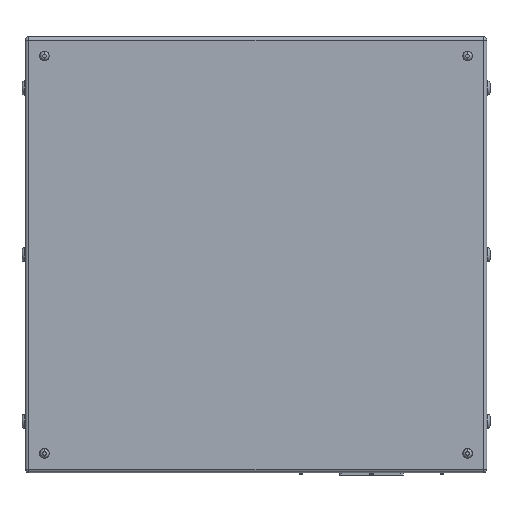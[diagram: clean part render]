
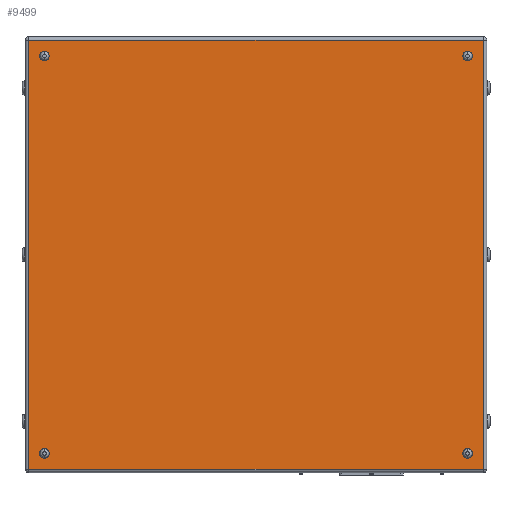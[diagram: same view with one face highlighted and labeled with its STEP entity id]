
A CAD part, front view. The second image highlights one B-rep face of the part: STEP entity #9499.
In plain terms, the highlighted planar face has unit normal (0, -1, 0).
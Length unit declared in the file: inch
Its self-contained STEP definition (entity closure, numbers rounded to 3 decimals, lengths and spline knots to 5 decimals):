
#220 = EDGE_CURVE ( 'NONE', #13367, #1342, #8935, .T. ) ;
#399 = AXIS2_PLACEMENT_3D ( 'NONE', #11815, #15180, #6058 ) ;
#473 = CARTESIAN_POINT ( 'NONE',  ( 0., -7.75, 0. ) ) ;
#524 = VECTOR ( 'NONE', #6562, 39.37008 ) ;
#556 = CIRCLE ( 'NONE', #11425, 0.37402 ) ;
#579 = LINE ( 'NONE', #1799, #524 ) ;
#589 = CARTESIAN_POINT ( 'NONE',  ( -16.5, -7.75, 15.5 ) ) ;
#716 = CARTESIAN_POINT ( 'NONE',  ( 16.5, -7.75, 15.5 ) ) ;
#803 = ORIENTED_EDGE ( 'NONE', *, *, #4054, .F. ) ;
#1209 = DIRECTION ( 'NONE',  ( 0., -1., 0. ) ) ;
#1342 = VERTEX_POINT ( 'NONE', #6929 ) ;
#1357 = DIRECTION ( 'NONE',  ( 0., -1., 0. ) ) ;
#1518 = ORIENTED_EDGE ( 'NONE', *, *, #1999, .T. ) ;
#1523 = CIRCLE ( 'NONE', #12390, 0.37402 ) ;
#1799 = CARTESIAN_POINT ( 'NONE',  ( -17.734, -7.75, 16.734 ) ) ;
#1999 = EDGE_CURVE ( 'NONE', #4514, #7665, #8970, .T. ) ;
#2018 = CARTESIAN_POINT ( 'NONE',  ( 17.734, -7.75, -16.734 ) ) ;
#2274 = CIRCLE ( 'NONE', #14120, 0.37402 ) ;
#2425 = EDGE_LOOP ( 'NONE', ( #6104, #11418 ) ) ;
#2498 = ORIENTED_EDGE ( 'NONE', *, *, #8662, .T. ) ;
#2500 = VERTEX_POINT ( 'NONE', #9422 ) ;
#2539 = ORIENTED_EDGE ( 'NONE', *, *, #7793, .F. ) ;
#2714 = DIRECTION ( 'NONE',  ( 0., -1., 0. ) ) ;
#2738 = CARTESIAN_POINT ( 'NONE',  ( 17.734, -7.75, -16.734 ) ) ;
#2740 = DIRECTION ( 'NONE',  ( 0., -1., 0. ) ) ;
#2813 = DIRECTION ( 'NONE',  ( 0., 0., -1. ) ) ;
#3139 = EDGE_CURVE ( 'NONE', #14679, #12711, #13723, .T. ) ;
#3445 = VERTEX_POINT ( 'NONE', #11557 ) ;
#3470 = CIRCLE ( 'NONE', #5221, 0.37402 ) ;
#3528 = CIRCLE ( 'NONE', #9226, 0.37402 ) ;
#3604 = DIRECTION ( 'NONE',  ( 0., 0., -1. ) ) ;
#3809 = VERTEX_POINT ( 'NONE', #8789 ) ;
#3865 = FACE_OUTER_BOUND ( 'NONE', #13239, .T. ) ;
#3964 = DIRECTION ( 'NONE',  ( 1., 0., 0. ) ) ;
#3983 = ORIENTED_EDGE ( 'NONE', *, *, #11638, .T. ) ;
#4004 = AXIS2_PLACEMENT_3D ( 'NONE', #473, #2714, #12164 ) ;
#4054 = EDGE_CURVE ( 'NONE', #11959, #3809, #4960, .T. ) ;
#4221 = DIRECTION ( 'NONE',  ( 0., 0., -1. ) ) ;
#4298 = DIRECTION ( 'NONE',  ( 0., -1., 0. ) ) ;
#4436 = CARTESIAN_POINT ( 'NONE',  ( -17.734, -7.75, 16.734 ) ) ;
#4514 = VERTEX_POINT ( 'NONE', #4436 ) ;
#4929 = EDGE_LOOP ( 'NONE', ( #6351, #2539 ) ) ;
#4960 = CIRCLE ( 'NONE', #13841, 0.37402 ) ;
#5055 = FACE_BOUND ( 'NONE', #4929, .T. ) ;
#5192 = VECTOR ( 'NONE', #3964, 39.37008 ) ;
#5221 = AXIS2_PLACEMENT_3D ( 'NONE', #7437, #6168, #9725 ) ;
#5312 = LINE ( 'NONE', #2738, #5192 ) ;
#5613 = AXIS2_PLACEMENT_3D ( 'NONE', #8080, #12771, #15117 ) ;
#5680 = ORIENTED_EDGE ( 'NONE', *, *, #14100, .F. ) ;
#6004 = DIRECTION ( 'NONE',  ( 0., -1., 0. ) ) ;
#6058 = DIRECTION ( 'NONE',  ( 0., 0., -1. ) ) ;
#6104 = ORIENTED_EDGE ( 'NONE', *, *, #9210, .F. ) ;
#6168 = DIRECTION ( 'NONE',  ( 0., -1., 0. ) ) ;
#6329 = CARTESIAN_POINT ( 'NONE',  ( -16.5, -7.75, -15.5 ) ) ;
#6351 = ORIENTED_EDGE ( 'NONE', *, *, #12852, .F. ) ;
#6562 = DIRECTION ( 'NONE',  ( -1., 0., 0. ) ) ;
#6626 = CIRCLE ( 'NONE', #5613, 0.37402 ) ;
#6856 = CARTESIAN_POINT ( 'NONE',  ( 16.5, -7.75, 15.5 ) ) ;
#6929 = CARTESIAN_POINT ( 'NONE',  ( 17.734, -7.75, 16.734 ) ) ;
#7041 = EDGE_LOOP ( 'NONE', ( #12302, #11736 ) ) ;
#7171 = DIRECTION ( 'NONE',  ( 0., 0., 1. ) ) ;
#7211 = EDGE_LOOP ( 'NONE', ( #5680, #803 ) ) ;
#7437 = CARTESIAN_POINT ( 'NONE',  ( 16.5, -7.75, -15.5 ) ) ;
#7665 = VERTEX_POINT ( 'NONE', #13119 ) ;
#7793 = EDGE_CURVE ( 'NONE', #8530, #10760, #3470, .T. ) ;
#8031 = DIRECTION ( 'NONE',  ( 0., 0., -1. ) ) ;
#8080 = CARTESIAN_POINT ( 'NONE',  ( -16.5, -7.75, 15.5 ) ) ;
#8530 = VERTEX_POINT ( 'NONE', #9259 ) ;
#8662 = EDGE_CURVE ( 'NONE', #1342, #4514, #579, .T. ) ;
#8789 = CARTESIAN_POINT ( 'NONE',  ( 16.5, -7.75, 15.87402 ) ) ;
#8935 = LINE ( 'NONE', #13619, #14940 ) ;
#8970 = LINE ( 'NONE', #13493, #13714 ) ;
#9210 = EDGE_CURVE ( 'NONE', #12711, #14679, #556, .T. ) ;
#9226 = AXIS2_PLACEMENT_3D ( 'NONE', #716, #1357, #13636 ) ;
#9259 = CARTESIAN_POINT ( 'NONE',  ( 16.5, -7.75, -15.87402 ) ) ;
#9422 = CARTESIAN_POINT ( 'NONE',  ( -16.5, -7.75, 15.12598 ) ) ;
#9499 = ADVANCED_FACE ( 'NONE', ( #12295, #5055, #9712, #14456, #3865 ), #13312, .T. ) ;
#9712 = FACE_BOUND ( 'NONE', #7041, .T. ) ;
#9725 = DIRECTION ( 'NONE',  ( 0., 0., -1. ) ) ;
#9861 = CARTESIAN_POINT ( 'NONE',  ( 16.5, -7.75, -15.12598 ) ) ;
#10760 = VERTEX_POINT ( 'NONE', #9861 ) ;
#11267 = CARTESIAN_POINT ( 'NONE',  ( -16.5, -7.75, -15.87402 ) ) ;
#11291 = CARTESIAN_POINT ( 'NONE',  ( 16.5, -7.75, 15.12598 ) ) ;
#11418 = ORIENTED_EDGE ( 'NONE', *, *, #3139, .F. ) ;
#11425 = AXIS2_PLACEMENT_3D ( 'NONE', #6329, #2740, #2813 ) ;
#11518 = CARTESIAN_POINT ( 'NONE',  ( -16.5, -7.75, -15.12598 ) ) ;
#11557 = CARTESIAN_POINT ( 'NONE',  ( -16.5, -7.75, 15.87402 ) ) ;
#11638 = EDGE_CURVE ( 'NONE', #7665, #13367, #5312, .T. ) ;
#11736 = ORIENTED_EDGE ( 'NONE', *, *, #14567, .F. ) ;
#11815 = CARTESIAN_POINT ( 'NONE',  ( -16.5, -7.75, -15.5 ) ) ;
#11959 = VERTEX_POINT ( 'NONE', #11291 ) ;
#12164 = DIRECTION ( 'NONE',  ( 0., 0., -1. ) ) ;
#12295 = FACE_BOUND ( 'NONE', #7211, .T. ) ;
#12302 = ORIENTED_EDGE ( 'NONE', *, *, #12989, .F. ) ;
#12390 = AXIS2_PLACEMENT_3D ( 'NONE', #13199, #1209, #3604 ) ;
#12711 = VERTEX_POINT ( 'NONE', #11518 ) ;
#12771 = DIRECTION ( 'NONE',  ( 0., -1., 0. ) ) ;
#12852 = EDGE_CURVE ( 'NONE', #10760, #8530, #1523, .T. ) ;
#12989 = EDGE_CURVE ( 'NONE', #3445, #2500, #2274, .T. ) ;
#13119 = CARTESIAN_POINT ( 'NONE',  ( -17.734, -7.75, -16.734 ) ) ;
#13199 = CARTESIAN_POINT ( 'NONE',  ( 16.5, -7.75, -15.5 ) ) ;
#13239 = EDGE_LOOP ( 'NONE', ( #13987, #2498, #1518, #3983 ) ) ;
#13312 = PLANE ( 'NONE',  #4004 ) ;
#13367 = VERTEX_POINT ( 'NONE', #2018 ) ;
#13493 = CARTESIAN_POINT ( 'NONE',  ( -17.734, -7.75, -16.734 ) ) ;
#13619 = CARTESIAN_POINT ( 'NONE',  ( 17.734, -7.75, 16.734 ) ) ;
#13636 = DIRECTION ( 'NONE',  ( 0., 0., -1. ) ) ;
#13714 = VECTOR ( 'NONE', #14633, 39.37008 ) ;
#13723 = CIRCLE ( 'NONE', #399, 0.37402 ) ;
#13841 = AXIS2_PLACEMENT_3D ( 'NONE', #6856, #6004, #8031 ) ;
#13987 = ORIENTED_EDGE ( 'NONE', *, *, #220, .T. ) ;
#14100 = EDGE_CURVE ( 'NONE', #3809, #11959, #3528, .T. ) ;
#14120 = AXIS2_PLACEMENT_3D ( 'NONE', #589, #4298, #4221 ) ;
#14456 = FACE_BOUND ( 'NONE', #2425, .T. ) ;
#14567 = EDGE_CURVE ( 'NONE', #2500, #3445, #6626, .T. ) ;
#14633 = DIRECTION ( 'NONE',  ( 0., 0., -1. ) ) ;
#14679 = VERTEX_POINT ( 'NONE', #11267 ) ;
#14940 = VECTOR ( 'NONE', #7171, 39.37008 ) ;
#15117 = DIRECTION ( 'NONE',  ( 0., 0., -1. ) ) ;
#15180 = DIRECTION ( 'NONE',  ( 0., -1., 0. ) ) ;
